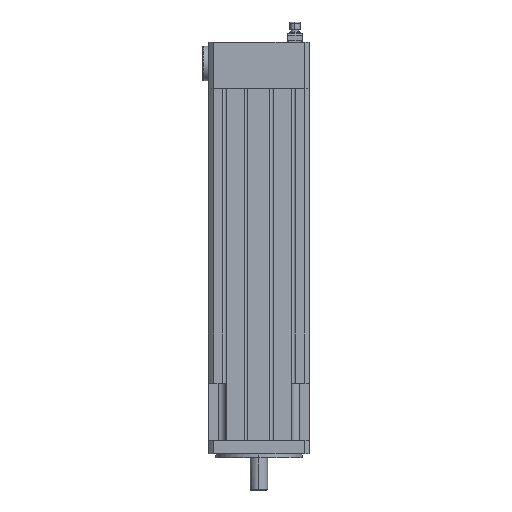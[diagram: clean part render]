
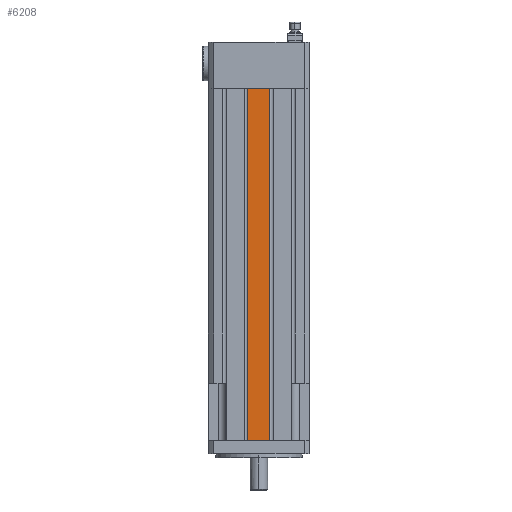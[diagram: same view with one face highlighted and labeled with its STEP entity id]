
A CAD part, left-side view. The second image highlights one B-rep face of the part: STEP entity #6208.
In plain terms, the highlighted planar face has unit normal (-1, 0, 0).
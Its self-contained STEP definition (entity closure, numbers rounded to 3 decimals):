
#170 = ORIENTED_EDGE ( 'NONE', *, *, #281, .T. ) ;
#281 = EDGE_CURVE ( 'NONE', #10214, #9692, #2915, .T. ) ;
#375 = DIRECTION ( 'NONE',  ( 0., -1., 0. ) ) ;
#1271 = EDGE_CURVE ( 'NONE', #13355, #8091, #4231, .T. ) ;
#1898 = EDGE_CURVE ( 'NONE', #13355, #10214, #7968, .T. ) ;
#2915 = LINE ( 'NONE', #9811, #5357 ) ;
#3980 = VECTOR ( 'NONE', #11898, 1000. ) ;
#4094 = ORIENTED_EDGE ( 'NONE', *, *, #1898, .T. ) ;
#4231 = LINE ( 'NONE', #9635, #10536 ) ;
#5357 = VECTOR ( 'NONE', #8800, 1000. ) ;
#5680 = PLANE ( 'NONE',  #6930 ) ;
#5740 = CARTESIAN_POINT ( 'NONE',  ( -35., 7.547, 244. ) ) ;
#6208 = ADVANCED_FACE ( 'NONE', ( #10821 ), #5680, .F. ) ;
#6260 = VECTOR ( 'NONE', #7632, 1000. ) ;
#6689 = EDGE_CURVE ( 'NONE', #8091, #9692, #8644, .T. ) ;
#6930 = AXIS2_PLACEMENT_3D ( 'NONE', #11958, #12988, #12026 ) ;
#6932 = EDGE_LOOP ( 'NONE', ( #170, #12384, #12087, #4094 ) ) ;
#7023 = CARTESIAN_POINT ( 'NONE',  ( -35., -7.547, 0. ) ) ;
#7310 = CARTESIAN_POINT ( 'NONE',  ( -35., -7.547, 244. ) ) ;
#7632 = DIRECTION ( 'NONE',  ( 0., 0., -1. ) ) ;
#7968 = LINE ( 'NONE', #5740, #3980 ) ;
#8091 = VERTEX_POINT ( 'NONE', #7310 ) ;
#8644 = LINE ( 'NONE', #12965, #6260 ) ;
#8800 = DIRECTION ( 'NONE',  ( 0., -1., 0. ) ) ;
#9635 = CARTESIAN_POINT ( 'NONE',  ( -35., -7.547, 244. ) ) ;
#9692 = VERTEX_POINT ( 'NONE', #7023 ) ;
#9811 = CARTESIAN_POINT ( 'NONE',  ( -35., -7.547, 0. ) ) ;
#10113 = CARTESIAN_POINT ( 'NONE',  ( -35., 7.547, 244. ) ) ;
#10214 = VERTEX_POINT ( 'NONE', #12480 ) ;
#10536 = VECTOR ( 'NONE', #375, 1000. ) ;
#10821 = FACE_OUTER_BOUND ( 'NONE', #6932, .T. ) ;
#11898 = DIRECTION ( 'NONE',  ( 0., 0., -1. ) ) ;
#11958 = CARTESIAN_POINT ( 'NONE',  ( -35., -7.547, 244. ) ) ;
#12026 = DIRECTION ( 'NONE',  ( 0., 1., 0. ) ) ;
#12087 = ORIENTED_EDGE ( 'NONE', *, *, #1271, .F. ) ;
#12384 = ORIENTED_EDGE ( 'NONE', *, *, #6689, .F. ) ;
#12480 = CARTESIAN_POINT ( 'NONE',  ( -35., 7.547, 0. ) ) ;
#12965 = CARTESIAN_POINT ( 'NONE',  ( -35., -7.547, 244. ) ) ;
#12988 = DIRECTION ( 'NONE',  ( 1., 0., 0. ) ) ;
#13355 = VERTEX_POINT ( 'NONE', #10113 ) ;
